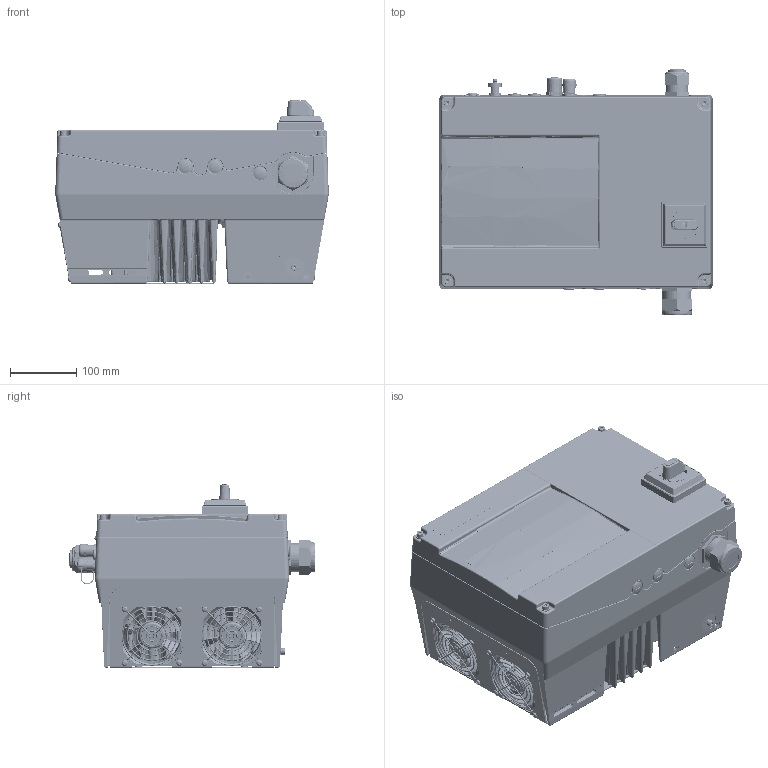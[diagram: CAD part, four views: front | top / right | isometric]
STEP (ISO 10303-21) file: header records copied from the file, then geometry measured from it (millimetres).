
FILE_DESCRIPTION(('CATIA V5 STEP 214','CAx-IF Rec.Pracs.--- Model Styling and Organization---1.4--- 2014-01-23'),'2;1');
FILE_NAME('C:\Temp\ddxv7\477326\MKT INVEOR MP D-1-0000A.stp','2021-02-19T13:18:32+00:00',('Leopold Kostal'),('Kostal GmbH'),'CATIA Version 5-6 Release 2016 SP6 HF31','CATIA V5 STEP AP214','none');
FILE_SCHEMA(('AUTOMOTIVE_DESIGN { 1 0 10303 214 1 1 1 1 }'));
Products named in the file (1): MKT INVEOR MP D-1-0000A
Bounding box: 413.93 x 373.2 x 279.27 mm (x, y, z)
Volume: 38213807 mm3; surface area: 3935786.4 mm2
Topology: 7 solids, 90 shells, 17588 faces, 44886 edges, 27630 vertices
Faces by surface type: plane 5155, cylinder 4948, bspline 3344, torus 1431, cone 1384, extrusion 1164, sphere 122, revolution 40
Entity records: 738827 total; most frequent: CARTESIAN_POINT 380258, ORIENTED_EDGE 88692, DIRECTION 47350, EDGE_CURVE 44346, VERTEX_POINT 27626, AXIS2_PLACEMENT_3D 20209, EDGE_LOOP 18860, ADVANCED_FACE 17588
